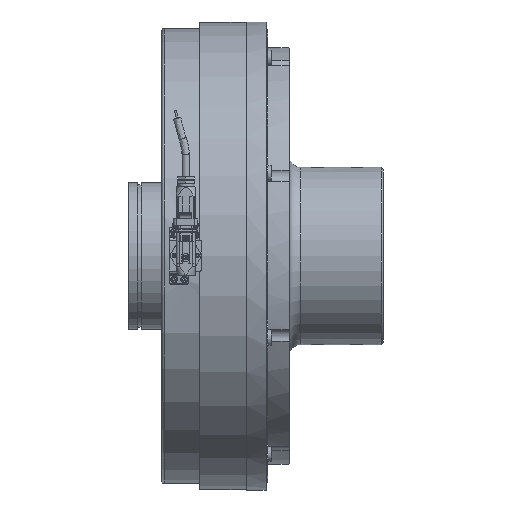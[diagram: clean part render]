
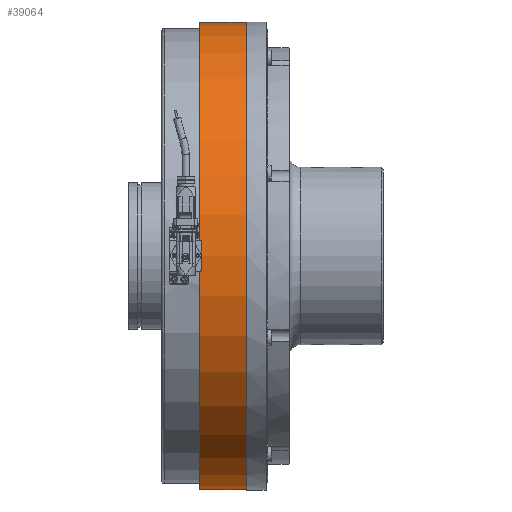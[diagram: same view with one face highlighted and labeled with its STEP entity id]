
A CAD part, top view. The second image highlights one B-rep face of the part: STEP entity #39064.
In plain terms, the highlighted cylindrical face has radius 302.5 mm (diameter 605 mm), a full revolution.
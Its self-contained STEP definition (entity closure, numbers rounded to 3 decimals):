
#2368=FACE_OUTER_BOUND('',#4411,.T.);
#4411=EDGE_LOOP('',(#26215,#26216,#26217,#26218,#26219,#26220));
#6808=LINE('',#58313,#10067);
#10067=VECTOR('',#46657,302.5);
#13432=CIRCLE('',#41519,302.5);
#13433=CIRCLE('',#41520,302.5);
#13434=CIRCLE('',#41522,302.5);
#13435=CIRCLE('',#41523,302.5);
#15711=VERTEX_POINT('',#58304);
#15712=VERTEX_POINT('',#58305);
#15713=VERTEX_POINT('',#58309);
#15714=VERTEX_POINT('',#58310);
#19827=EDGE_CURVE('',#15711,#15712,#13432,.T.);
#19828=EDGE_CURVE('',#15712,#15711,#13433,.T.);
#19829=EDGE_CURVE('',#15713,#15714,#13434,.T.);
#19830=EDGE_CURVE('',#15714,#15713,#13435,.T.);
#19831=EDGE_CURVE('',#15714,#15712,#6808,.T.);
#26215=ORIENTED_EDGE('',*,*,#19829,.F.);
#26216=ORIENTED_EDGE('',*,*,#19830,.F.);
#26217=ORIENTED_EDGE('',*,*,#19831,.T.);
#26218=ORIENTED_EDGE('',*,*,#19828,.T.);
#26219=ORIENTED_EDGE('',*,*,#19827,.T.);
#26220=ORIENTED_EDGE('',*,*,#19831,.F.);
#36285=CYLINDRICAL_SURFACE('',#41521,302.5);
#39064=ADVANCED_FACE('',(#2368),#36285,.T.);
#41519=AXIS2_PLACEMENT_3D('',#58306,#46647,#46648);
#41520=AXIS2_PLACEMENT_3D('',#58307,#46649,#46650);
#41521=AXIS2_PLACEMENT_3D('',#58308,#46651,#46652);
#41522=AXIS2_PLACEMENT_3D('',#58311,#46653,#46654);
#41523=AXIS2_PLACEMENT_3D('',#58312,#46655,#46656);
#46647=DIRECTION('center_axis',(1.,0.,0.));
#46648=DIRECTION('ref_axis',(0.,0.,-1.));
#46649=DIRECTION('center_axis',(1.,0.,0.));
#46650=DIRECTION('ref_axis',(0.,0.,-1.));
#46651=DIRECTION('center_axis',(1.,0.,0.));
#46652=DIRECTION('ref_axis',(0.,1.,0.));
#46653=DIRECTION('center_axis',(1.,0.,0.));
#46654=DIRECTION('ref_axis',(0.,0.,-1.));
#46655=DIRECTION('center_axis',(1.,0.,0.));
#46656=DIRECTION('ref_axis',(0.,0.,-1.));
#46657=DIRECTION('',(-1.,0.,0.));
#58304=CARTESIAN_POINT('',(17.7,302.5,0.));
#58305=CARTESIAN_POINT('',(17.7,-302.5,0.));
#58306=CARTESIAN_POINT('Origin',(17.7,0.,
0.));
#58307=CARTESIAN_POINT('Origin',(17.7,0.,
0.));
#58308=CARTESIAN_POINT('Origin',(47.7,0.,
0.));
#58309=CARTESIAN_POINT('',(77.7,302.5,0.));
#58310=CARTESIAN_POINT('',(77.7,-302.5,0.));
#58311=CARTESIAN_POINT('Origin',(77.7,0.,
0.));
#58312=CARTESIAN_POINT('Origin',(77.7,0.,
0.));
#58313=CARTESIAN_POINT('',(47.7,-302.5,0.));
